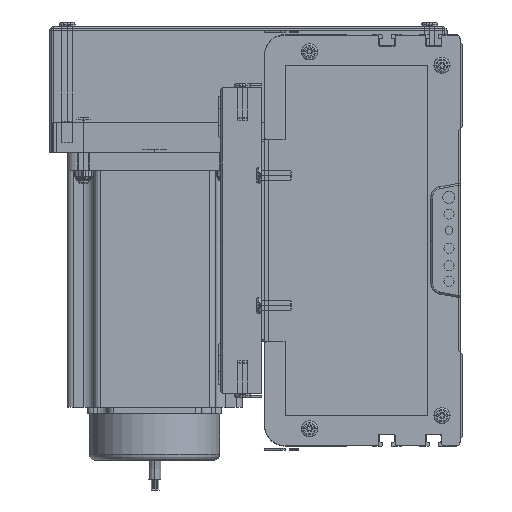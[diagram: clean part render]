
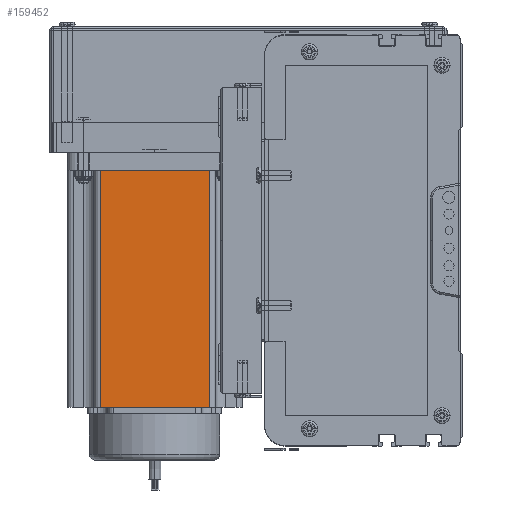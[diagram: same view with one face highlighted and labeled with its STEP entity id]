
A CAD part, left-side view. The second image highlights one B-rep face of the part: STEP entity #159452.
In plain terms, the highlighted planar face has unit normal (-1, 0, 0) as drawn and (0, -1, 0) by its records, which use the part's own axes.
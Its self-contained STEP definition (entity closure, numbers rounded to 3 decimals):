
#27095 = VERTEX_POINT ( 'NONE', #39735 ) ;
#27097 = EDGE_LOOP ( 'NONE', ( #159213, #159212, #159444, #159273 ) ) ;
#39735 = CARTESIAN_POINT ( 'NONE',  ( 16.16, 0., 0. ) ) ;
#41973 = LINE ( 'NONE', #42299, #42298 ) ;
#42246 = CARTESIAN_POINT ( 'NONE',  ( 16.16, 0., 116.5 ) ) ;
#42291 = DIRECTION ( 'NONE',  ( 0., 0., -1. ) ) ;
#42292 = VECTOR ( 'NONE', #42291, 1000. ) ;
#42293 = CARTESIAN_POINT ( 'NONE',  ( 16.16, 0., 116.5 ) ) ;
#42294 = LINE ( 'NONE', #42293, #42292 ) ;
#42297 = DIRECTION ( 'NONE',  ( 1., 0., 0. ) ) ;
#42298 = VECTOR ( 'NONE', #42297, 1000. ) ;
#42299 = CARTESIAN_POINT ( 'NONE',  ( 0., 0., 116.5 ) ) ;
#42432 = CARTESIAN_POINT ( 'NONE',  ( 69.74, 0., 116.5 ) ) ;
#42584 = CARTESIAN_POINT ( 'NONE',  ( 69.74, 0., 0. ) ) ;
#42640 = CARTESIAN_POINT ( 'NONE',  ( 69.74, 0., 116.5 ) ) ;
#42641 = LINE ( 'NONE', #42640, #42699 ) ;
#42698 = DIRECTION ( 'NONE',  ( 0., 0., 1. ) ) ;
#42699 = VECTOR ( 'NONE', #42698, 1000. ) ;
#43259 = DIRECTION ( 'NONE',  ( 0., 1., 0. ) ) ;
#43273 = DIRECTION ( 'NONE',  ( 0., 0., 1. ) ) ;
#43294 = FACE_OUTER_BOUND ( 'NONE', #27097, .T. ) ;
#43295 = DIRECTION ( 'NONE',  ( 1., 0., 0. ) ) ;
#43296 = AXIS2_PLACEMENT_3D ( 'NONE', #43298, #43259, #43273 ) ;
#43298 = CARTESIAN_POINT ( 'NONE',  ( 0., 0., 116.5 ) ) ;
#43302 = CARTESIAN_POINT ( 'NONE',  ( 0., 0., 0. ) ) ;
#43303 = LINE ( 'NONE', #43302, #43312 ) ;
#43312 = VECTOR ( 'NONE', #43295, 1000. ) ;
#43389 = PLANE ( 'NONE',  #43296 ) ;
#158855 = VERTEX_POINT ( 'NONE', #42246 ) ;
#158857 = EDGE_CURVE ( 'NONE', #158855, #158991, #41973, .T. ) ;
#158860 = EDGE_CURVE ( 'NONE', #158855, #27095, #42294, .T. ) ;
#158991 = VERTEX_POINT ( 'NONE', #42432 ) ;
#159210 = VERTEX_POINT ( 'NONE', #42584 ) ;
#159212 = ORIENTED_EDGE ( 'NONE', *, *, #159215, .T. ) ;
#159213 = ORIENTED_EDGE ( 'NONE', *, *, #159448, .T. ) ;
#159215 = EDGE_CURVE ( 'NONE', #159210, #158991, #42641, .T. ) ;
#159273 = ORIENTED_EDGE ( 'NONE', *, *, #158860, .T. ) ;
#159444 = ORIENTED_EDGE ( 'NONE', *, *, #158857, .F. ) ;
#159448 = EDGE_CURVE ( 'NONE', #27095, #159210, #43303, .T. ) ;
#159452 = ADVANCED_FACE ( 'NONE', ( #43294 ), #43389, .F. ) ;
